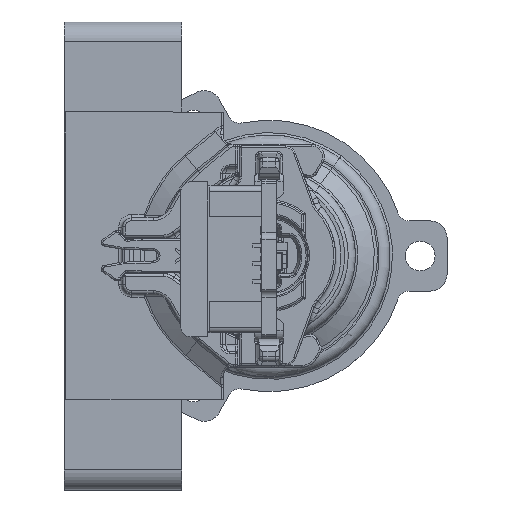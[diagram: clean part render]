
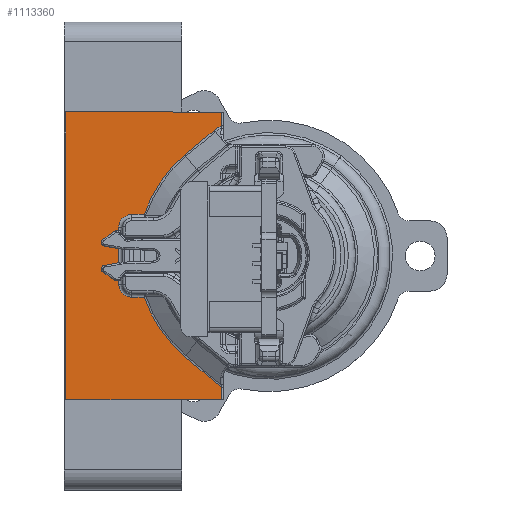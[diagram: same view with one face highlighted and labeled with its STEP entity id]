
A CAD part, top view. The second image highlights one B-rep face of the part: STEP entity #1113360.
In plain terms, the highlighted planar face has unit normal (0, 0, 1).
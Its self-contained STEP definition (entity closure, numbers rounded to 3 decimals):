
#1035850=CARTESIAN_POINT('',(9.698,11.04,
10.174));
#1035860=VERTEX_POINT('',#1035850);
#1035890=CARTESIAN_POINT('',(12.348,11.038,
10.174));
#1035900=DIRECTION('',(1.,-0.001,
0.));
#1035910=VECTOR('',#1035900,1.);
#1035920=LINE('',#1035890,#1035910);
#1035930=CARTESIAN_POINT('',(1.048,11.044,
10.174));
#1035940=VERTEX_POINT('',#1035930);
#1035950=EDGE_CURVE('',#1035940,#1035860,#1035920,.T.);
#1036830=CARTESIAN_POINT('',(3.998,4.647,
10.174));
#1036840=VERTEX_POINT('',#1036830);
#1036870=CARTESIAN_POINT('',(4.698,4.647,
10.174));
#1036880=DIRECTION('',(0.,0.,-1.));
#1036890=DIRECTION('',(-1.,0.,0.));
#1036900=AXIS2_PLACEMENT_3D('',#1036870,#1036880,#1036890);
#1036910=CIRCLE('',#1036900,0.7);
#1036920=CARTESIAN_POINT('',(4.698,5.347,
10.174));
#1036930=VERTEX_POINT('',#1036920);
#1036940=EDGE_CURVE('',#1036840,#1036930,#1036910,.T.);
#1037990=CARTESIAN_POINT('',(5.416,5.347,
10.174));
#1038000=VERTEX_POINT('',#1037990);
#1044080=CARTESIAN_POINT('',(7.654,-2.548,
10.174));
#1044090=VERTEX_POINT('',#1044080);
#1044280=CARTESIAN_POINT('',(9.698,-4.264,
10.174));
#1044290=VERTEX_POINT('',#1044280);
#1044320=CARTESIAN_POINT('',(12.348,-6.487,
10.174));
#1044330=DIRECTION('',(0.766,-0.643,0.));
#1044340=VECTOR('',#1044330,1.);
#1044350=LINE('',#1044320,#1044340);
#1044360=EDGE_CURVE('',#1044090,#1044290,#1044350,.T.);
#1054140=CARTESIAN_POINT('',(4.698,0.747,
10.174));
#1054150=VERTEX_POINT('',#1054140);
#1054200=CARTESIAN_POINT('',(4.698,1.447,
10.174));
#1054210=DIRECTION('',(0.,0.,1.));
#1054220=DIRECTION('',(1.,0.,0.));
#1054230=AXIS2_PLACEMENT_3D('',#1054200,#1054210,#1054220);
#1054240=CIRCLE('',#1054230,0.7);
#1054250=CARTESIAN_POINT('',(3.998,1.447,
10.174));
#1054260=VERTEX_POINT('',#1054250);
#1054270=EDGE_CURVE('',#1054260,#1054150,#1054240,.T.);
#1055880=CARTESIAN_POINT('',(5.416,0.747,
10.174));
#1055890=VERTEX_POINT('',#1055880);
#1056110=CARTESIAN_POINT('',(1.048,3.047,
10.174));
#1056120=DIRECTION('',(0.,-1.,0.));
#1056130=VECTOR('',#1056120,1.);
#1056140=LINE('',#1056110,#1056130);
#1056150=CARTESIAN_POINT('',(1.048,-4.952,
10.174));
#1056160=VERTEX_POINT('',#1056150);
#1056170=EDGE_CURVE('',#1035940,#1056160,#1056140,.T.);
#1056860=CARTESIAN_POINT('',(3.998,3.047,
10.174));
#1056870=DIRECTION('',(0.,1.,0.));
#1056880=VECTOR('',#1056870,1.);
#1056890=LINE('',#1056860,#1056880);
#1056900=EDGE_CURVE('',#1054260,#1036840,#1056890,.T.);
#1058340=CARTESIAN_POINT('',(12.348,5.347,
10.174));
#1058350=DIRECTION('',(-1.,0.,0.));
#1058360=VECTOR('',#1058350,1.);
#1058370=LINE('',#1058340,#1058360);
#1058380=EDGE_CURVE('',#1038000,#1036930,#1058370,.T.);
#1071700=CARTESIAN_POINT('',(12.348,3.047,
10.174));
#1071710=DIRECTION('',(0.,0.,-1.));
#1071720=DIRECTION('',(-1.,0.,0.));
#1071730=AXIS2_PLACEMENT_3D('',#1071700,#1071710,#1071720);
#1071740=CIRCLE('',#1071730,7.304);
#1071750=EDGE_CURVE('',#1044090,#1055890,#1071740,.T.);
#1072100=CARTESIAN_POINT('',(9.698,-4.957,
10.174));
#1072110=VERTEX_POINT('',#1072100);
#1072140=CARTESIAN_POINT('',(9.698,3.047,
10.174));
#1072150=DIRECTION('',(0.,1.,0.));
#1072160=VECTOR('',#1072150,1.);
#1072170=LINE('',#1072140,#1072160);
#1072180=EDGE_CURVE('',#1072110,#1044290,#1072170,.T.);
#1100870=CARTESIAN_POINT('',(0.5,-4.952,
10.174));
#1100880=DIRECTION('',(-1.,0.001,
0.));
#1100890=VECTOR('',#1100880,1.);
#1100900=LINE('',#1100870,#1100890);
#1100910=EDGE_CURVE('',#1072110,#1056160,#1100900,.T.);
#1112810=CARTESIAN_POINT('',(0.852,-6.457,
10.174));
#1112820=DIRECTION('',(0.,0.,1.));
#1112830=DIRECTION('',(1.,0.,0.));
#1112840=AXIS2_PLACEMENT_3D('',#1112810,#1112820,#1112830);
#1112850=PLANE('',#1112840);
#1112860=ORIENTED_EDGE('',*,*,#1100910,.F.);
#1112870=ORIENTED_EDGE('',*,*,#1056170,.T.);
#1112880=ORIENTED_EDGE('',*,*,#1035950,.F.);
#1112890=CARTESIAN_POINT('',(9.698,3.047,
10.174));
#1112900=DIRECTION('',(0.,1.,0.));
#1112910=VECTOR('',#1112900,1.);
#1112920=LINE('',#1112890,#1112910);
#1112930=CARTESIAN_POINT('',(9.698,10.266,
10.174));
#1112940=VERTEX_POINT('',#1112930);
#1112950=EDGE_CURVE('',#1112940,#1035860,#1112920,.T.);
#1112960=ORIENTED_EDGE('',*,*,#1112950,.T.);
#1112970=CARTESIAN_POINT('',(10.352,8.747,
10.174));
#1112980=DIRECTION('',(0.,0.,-1.));
#1112990=DIRECTION('',(-1.,0.,0.));
#1113000=AXIS2_PLACEMENT_3D('',#1112970,#1112980,#1112990);
#1113010=CIRCLE('',#1113000,1.654);
#1113020=CARTESIAN_POINT('',(9.289,10.014,
10.174));
#1113030=VERTEX_POINT('',#1113020);
#1113040=EDGE_CURVE('',#1113030,#1112940,#1113010,.T.);
#1113050=ORIENTED_EDGE('',*,*,#1113040,.T.);
#1113060=CARTESIAN_POINT('',(12.348,12.581,
10.174));
#1113070=DIRECTION('',(0.766,0.643,
0.));
#1113080=VECTOR('',#1113070,1.);
#1113090=LINE('',#1113060,#1113080);
#1113100=CARTESIAN_POINT('',(7.654,8.642,
10.174));
#1113110=VERTEX_POINT('',#1113100);
#1113120=EDGE_CURVE('',#1113110,#1113030,#1113090,.T.);
#1113130=ORIENTED_EDGE('',*,*,#1113120,.T.);
#1113140=CARTESIAN_POINT('',(12.348,3.047,
10.174));
#1113150=DIRECTION('',(0.,0.,-1.));
#1113160=DIRECTION('',(-1.,0.,0.));
#1113170=AXIS2_PLACEMENT_3D('',#1113140,#1113150,#1113160);
#1113180=CIRCLE('',#1113170,7.304);
#1113190=EDGE_CURVE('',#1038000,#1113110,#1113180,.T.);
#1113200=ORIENTED_EDGE('',*,*,#1113190,.T.);
#1113210=ORIENTED_EDGE('',*,*,#1058380,.F.);
#1113220=ORIENTED_EDGE('',*,*,#1036940,.T.);
#1113230=ORIENTED_EDGE('',*,*,#1056900,.T.);
#1113240=ORIENTED_EDGE('',*,*,#1054270,.F.);
#1113250=CARTESIAN_POINT('',(12.348,0.747,
10.174));
#1113260=DIRECTION('',(1.,0.,0.));
#1113270=VECTOR('',#1113260,1.);
#1113280=LINE('',#1113250,#1113270);
#1113290=EDGE_CURVE('',#1054150,#1055890,#1113280,.T.);
#1113300=ORIENTED_EDGE('',*,*,#1113290,.F.);
#1113310=ORIENTED_EDGE('',*,*,#1071750,.T.);
#1113320=ORIENTED_EDGE('',*,*,#1044360,.F.);
#1113330=ORIENTED_EDGE('',*,*,#1072180,.T.);
#1113340=EDGE_LOOP('',(#1113330,#1113320,#1113310,#1113300,#1113240,
#1113230,#1113220,#1113210,#1113200,#1113130,#1113050,#1112960,#1112880,
#1112870,#1112860));
#1113350=FACE_OUTER_BOUND('',#1113340,.T.);
#1113360=ADVANCED_FACE('',(#1113350),#1112850,.T.);
